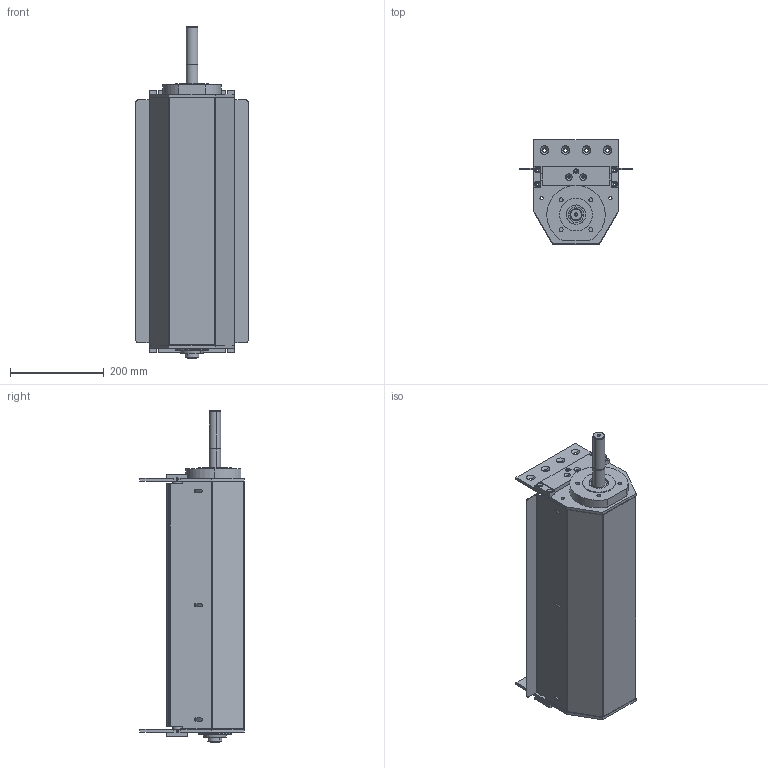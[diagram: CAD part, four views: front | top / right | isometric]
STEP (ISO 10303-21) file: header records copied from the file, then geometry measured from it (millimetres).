
FILE_DESCRIPTION (( 'STEP AP203' ), '1' );
FILE_NAME ('084.050.KCS.49.500.STEP', '2019-06-25T13:58:51', ( 'Localadmin' ), ( 'Microsoft' ), 'SwSTEP 2.0', 'SolidWorks 2018', '' );
FILE_SCHEMA (( 'CONFIG_CONTROL_DESIGN' ));
Length unit declared in the file: millimetre
Products named in the file (15): 084.817.092_Default<A macchina>; 084.817.090; 084.802.012_Solo centrale; 084.802.004-1; 084.812.003; 084.802.011; 084.817.093; 084.817.091; CUSCINETTI A SFERE_6004-2RS; 084.814.003-1; 084.810.003; 084.802.021; 084.802.020; 084.802.003-1; 084.050.KCS.49.500
Assembly tree (25 placements, depth 2):
  084.050.KCS.49.500
    084.817.090  x2
    084.817.092_Default<A macchina>
    084.802.011
    084.802.021
    084.814.003-1
    084.810.003  x2
    084.802.004-1  x4
    084.802.020
    084.812.003
    084.802.003-1  x2
    084.802.012_Solo centrale  x2
    084.817.093
    084.817.091  x2
    CUSCINETTI A SFERE_6004-2RS  x4
Bounding box: 240 x 223 x 710 mm (x, y, z)
Volume: 3484167.3 mm3; surface area: 1709211 mm2
Topology: 27 solids, 27 shells, 1004 faces, 2499 edges, 1603 vertices
Faces by surface type: plane 423, cylinder 359, cone 144, torus 68, sphere 10
Entity records: 21199 total; most frequent: DIRECTION 3572, CARTESIAN_POINT 3373, ORIENTED_EDGE 3134, EDGE_CURVE 1567, AXIS2_PLACEMENT_3D 1357, VERTEX_POINT 1010, LINE 858, VECTOR 858
